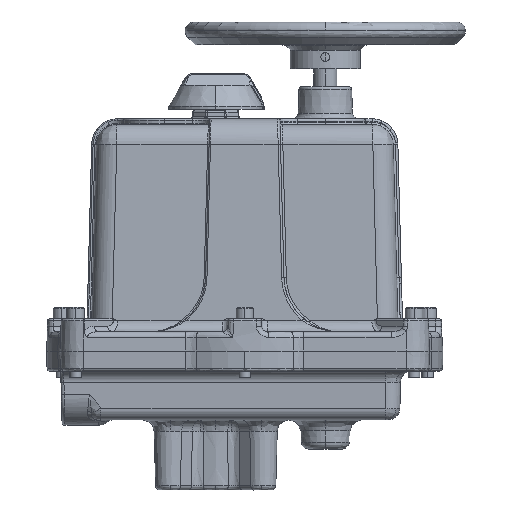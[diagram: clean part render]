
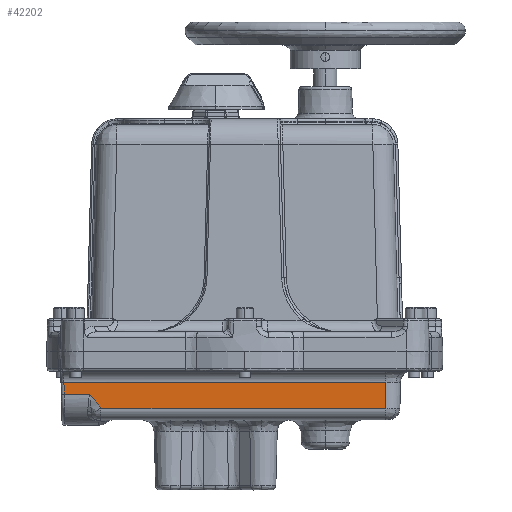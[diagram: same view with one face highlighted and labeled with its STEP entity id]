
A CAD part, left-side view. The second image highlights one B-rep face of the part: STEP entity #42202.
In plain terms, the highlighted planar face has unit normal (-1, 0, -0.026).
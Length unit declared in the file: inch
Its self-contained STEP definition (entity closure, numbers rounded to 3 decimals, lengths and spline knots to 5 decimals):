
#1213 = CARTESIAN_POINT ( 'NONE',  ( -2.76342, 2.63697, -1.01491 ) ) ;
#1305 = LINE ( 'NONE', #13268, #28398 ) ;
#3161 = DIRECTION ( 'NONE',  ( -1., 0., -0.026 ) ) ;
#5299 = CARTESIAN_POINT ( 'NONE',  ( -2.76463, -3.63673, -0.96896 ) ) ;
#6917 = DIRECTION ( 'NONE',  ( 0.026, -0.026, -0.999 ) ) ;
#7799 = VERTEX_POINT ( 'NONE', #16182 ) ;
#8244 = CARTESIAN_POINT ( 'NONE',  ( -2.7606, 2.54312, -1.12255 ) ) ;
#9032 = EDGE_CURVE ( 'NONE', #43145, #9535, #27346, .T. ) ;
#9111 = CARTESIAN_POINT ( 'NONE',  ( -2.76001, 2.52578, -1.14514 ) ) ;
#9535 = VERTEX_POINT ( 'NONE', #55056 ) ;
#9546 = CARTESIAN_POINT ( 'NONE',  ( -2.76344, 2.63768, -1.01415 ) ) ;
#12394 = VECTOR ( 'NONE', #59222, 39.37008 ) ;
#12572 = ORIENTED_EDGE ( 'NONE', *, *, #9032, .F. ) ;
#13268 = CARTESIAN_POINT ( 'NONE',  ( -2.75725, 2.73, -1.25054 ) ) ;
#14470 = CARTESIAN_POINT ( 'NONE',  ( -2.76384, 2.65173, -0.99915 ) ) ;
#14895 = CARTESIAN_POINT ( 'NONE',  ( -2.76174, 2.5792, -1.07924 ) ) ;
#15322 = CARTESIAN_POINT ( 'NONE',  ( -2.75944, 2.50979, -1.16689 ) ) ;
#15771 = CARTESIAN_POINT ( 'NONE',  ( -2.75797, 2.47156, -1.22316 ) ) ;
#16182 = CARTESIAN_POINT ( 'NONE',  ( -2.76531, 2.70531, -0.943 ) ) ;
#16201 = CARTESIAN_POINT ( 'NONE',  ( -2.76489, 2.69002, -0.95891 ) ) ;
#17710 = FACE_OUTER_BOUND ( 'NONE', #38512, .T. ) ;
#18141 = CARTESIAN_POINT ( 'NONE',  ( -2.76531, 2.73, -0.943 ) ) ;
#18977 = ORIENTED_EDGE ( 'NONE', *, *, #76388, .T. ) ;
#19487 = VECTOR ( 'NONE', #32261, 39.37008 ) ;
#20169 = CARTESIAN_POINT ( 'NONE',  ( -2.75725, 2.45621, -1.25054 ) ) ;
#21067 = CARTESIAN_POINT ( 'NONE',  ( -2.7595, 2.51146, -1.16458 ) ) ;
#21506 = CARTESIAN_POINT ( 'NONE',  ( -2.76151, 2.57175, -1.08798 ) ) ;
#22373 = CARTESIAN_POINT ( 'NONE',  ( -2.75945, 2.51004, -1.16655 ) ) ;
#22814 = CARTESIAN_POINT ( 'NONE',  ( -2.76352, 2.64025, -1.01139 ) ) ;
#25821 = CARTESIAN_POINT ( 'NONE',  ( -2.76531, 3.24183, -0.943 ) ) ;
#27008 = VERTEX_POINT ( 'NONE', #20169 ) ;
#27335 = VERTEX_POINT ( 'NONE', #25821 ) ;
#27346 = LINE ( 'NONE', #5299, #12394 ) ;
#28121 = CARTESIAN_POINT ( 'NONE',  ( -2.76531, 2.70531, -0.943 ) ) ;
#28236 = ORIENTED_EDGE ( 'NONE', *, *, #69286, .F. ) ;
#28398 = VECTOR ( 'NONE', #61394, 39.37008 ) ;
#28466 = AXIS2_PLACEMENT_3D ( 'NONE', #63275, #3161, #42888 ) ;
#28555 = CARTESIAN_POINT ( 'NONE',  ( -2.76256, 2.60665, -1.04788 ) ) ;
#30087 = PLANE ( 'NONE',  #28466 ) ;
#32261 = DIRECTION ( 'NONE',  ( 0., -1., 0. ) ) ;
#33562 = LINE ( 'NONE', #18141, #19487 ) ;
#34268 = VECTOR ( 'NONE', #81153, 39.37008 ) ;
#34757 = CARTESIAN_POINT ( 'NONE',  ( -2.76362, 2.64387, -1.00752 ) ) ;
#36181 = CARTESIAN_POINT ( 'NONE',  ( -2.77184, -3.64395, -0.69346 ) ) ;
#38512 = EDGE_LOOP ( 'NONE', ( #83959, #85011, #62560, #12572, #28236, #18977 ) ) ;
#40491 = LINE ( 'NONE', #67040, #72950 ) ;
#41412 = CARTESIAN_POINT ( 'NONE',  ( -2.77184, 3.24836, -0.69346 ) ) ;
#41806 = CARTESIAN_POINT ( 'NONE',  ( -2.76149, 2.57101, -1.08886 ) ) ;
#42202 = ADVANCED_FACE ( 'NONE', ( #17710 ), #30087, .T. ) ;
#42241 = CARTESIAN_POINT ( 'NONE',  ( -2.75725, 2.45621, -1.25054 ) ) ;
#42888 = DIRECTION ( 'NONE',  ( -0.026, 0., 1. ) ) ;
#43145 = VERTEX_POINT ( 'NONE', #36181 ) ;
#48002 = CARTESIAN_POINT ( 'NONE',  ( -2.7587, 2.48932, -1.19543 ) ) ;
#48431 = CARTESIAN_POINT ( 'NONE',  ( -2.76148, 2.57089, -1.089 ) ) ;
#48783 = CARTESIAN_POINT ( 'NONE',  ( -2.77184, -0.1733, -0.69346 ) ) ;
#48863 = CARTESIAN_POINT ( 'NONE',  ( -2.76307, 2.62432, -1.02851 ) ) ;
#49311 = CARTESIAN_POINT ( 'NONE',  ( -2.76342, 2.63695, -1.01494 ) ) ;
#50610 = EDGE_CURVE ( 'NONE', #7799, #27008, #81888, .T. ) ;
#55056 = CARTESIAN_POINT ( 'NONE',  ( -2.75725, -3.62936, -1.25054 ) ) ;
#55067 = CARTESIAN_POINT ( 'NONE',  ( -2.76154, 2.5728, -1.08674 ) ) ;
#55504 = CARTESIAN_POINT ( 'NONE',  ( -2.75947, 2.51061, -1.16576 ) ) ;
#56390 = CARTESIAN_POINT ( 'NONE',  ( -2.76343, 2.63708, -1.01479 ) ) ;
#57973 = EDGE_CURVE ( 'NONE', #27335, #7799, #33562, .T. ) ;
#59222 = DIRECTION ( 'NONE',  ( 0.026, 0.026, -0.999 ) ) ;
#61007 = VERTEX_POINT ( 'NONE', #41412 ) ;
#61394 = DIRECTION ( 'NONE',  ( 0., -1., 0. ) ) ;
#61741 = CARTESIAN_POINT ( 'NONE',  ( -2.76347, 2.63852, -1.01324 ) ) ;
#62186 = CARTESIAN_POINT ( 'NONE',  ( -2.75958, 2.51346, -1.16182 ) ) ;
#62560 = ORIENTED_EDGE ( 'NONE', *, *, #66918, .T. ) ;
#63275 = CARTESIAN_POINT ( 'NONE',  ( -2.79, 2.73, 0. ) ) ;
#63495 = CARTESIAN_POINT ( 'NONE',  ( -2.7615, 2.57131, -1.08851 ) ) ;
#66918 = EDGE_CURVE ( 'NONE', #27008, #9535, #1305, .T. ) ;
#67040 = CARTESIAN_POINT ( 'NONE',  ( -2.77184, 3.24836, -0.69346 ) ) ;
#68799 = CARTESIAN_POINT ( 'NONE',  ( -2.76113, 2.55932, -1.10268 ) ) ;
#69245 = CARTESIAN_POINT ( 'NONE',  ( -2.76201, 2.58802, -1.06903 ) ) ;
#69286 = EDGE_CURVE ( 'NONE', #61007, #43145, #76222, .T. ) ;
#69692 = CARTESIAN_POINT ( 'NONE',  ( -2.76343, 2.63726, -1.0146 ) ) ;
#72950 = VECTOR ( 'NONE', #6917, 39.37008 ) ;
#75426 = CARTESIAN_POINT ( 'NONE',  ( -2.76434, 2.67001, -0.97985 ) ) ;
#75859 = CARTESIAN_POINT ( 'NONE',  ( -2.76161, 2.57492, -1.08425 ) ) ;
#76222 = LINE ( 'NONE', #48783, #34268 ) ;
#76302 = CARTESIAN_POINT ( 'NONE',  ( -2.75972, 2.5175, -1.15629 ) ) ;
#76388 = EDGE_CURVE ( 'NONE', #61007, #27335, #40491, .T. ) ;
#81153 = DIRECTION ( 'NONE',  ( 0., -1., 0. ) ) ;
#81888 = B_SPLINE_CURVE_WITH_KNOTS ( 'NONE', 3,
 ( #28121, #16201, #75426, #14470, #34757, #22814, #61741, #9546, #69692, #56390, #1213, #49311, #48863, #28555, #69245, #14895, #75859, #55067, #21506, #63495, #41806, #48431, #68799, #8244, #9111, #76302, #62186, #21067, #55504, #22373, #15322, #48002, #15771, #42241 ),
 .UNSPECIFIED., .F., .F.,
 ( 4, 1, 1, 1, 1, 1, 1, 1, 2, 2, 1, 1, 1, 1, 1, 1, 2, 2, 1, 1, 1, 1, 1, 2, 2, 4 ),
 ( 0., 0.125, 0.1875, 0.21875, 0.23438, 0.24219, 0.24609, 0.24805, 0.24902, 0.25, 0.375, 0.4375, 0.46875, 0.48438, 0.49219, 0.49609, 0.49805, 0.5, 0.625, 0.6875, 0.71875, 0.73438, 0.74219, 0.74609, 0.75, 1. ),
 .UNSPECIFIED. ) ;
#83959 = ORIENTED_EDGE ( 'NONE', *, *, #57973, .T. ) ;
#85011 = ORIENTED_EDGE ( 'NONE', *, *, #50610, .T. ) ;
